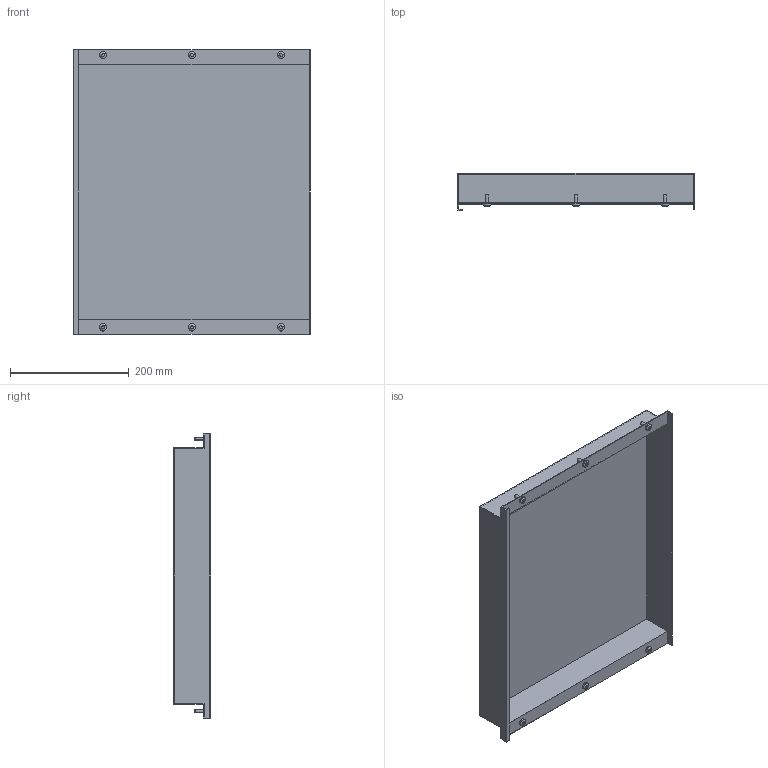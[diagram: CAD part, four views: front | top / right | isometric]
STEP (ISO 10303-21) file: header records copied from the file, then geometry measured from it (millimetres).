
FILE_DESCRIPTION (( 'STEP AP214' ), '1' );
FILE_NAME ('FO-00-PVSU-040-060 Ïëàñòðîí âíóòðåííèé óãëóáëåííûé 400õ600õ50.STEP', '2025-09-29T14:15:42', ( '' ), ( '' ), 'SwSTEP 2.0', 'SolidWorks 2023', '' );
FILE_SCHEMA (( 'AUTOMOTIVE_DESIGN' ));
Length unit declared in the file: millimetre
Products named in the file (3): FO-00-PVSU-040-060 Пластрон внутренний углубленный 400х600х50; Винты М6х16 40-60
Assembly tree (3 placements, depth 2):
  FO-00-PVSU-040-060 Пластрон внутренний углубленный 400х600х50
    FO-00-PVSU-040-060 Пластрон внутренний углубленный 400х600х50
    Винты М6х16 40-60  x2
Bounding box: 398 x 62.5 x 479 mm (x, y, z)
Volume: 404715.5 mm3; surface area: 578104.2 mm2
Topology: 7 solids, 7 shells, 214 faces, 558 edges, 364 vertices
Faces by surface type: cylinder 132, plane 52, cone 18, bspline 12
Entity records: 4464 total; most frequent: CARTESIAN_POINT 1022, ORIENTED_EDGE 708, DIRECTION 692, EDGE_CURVE 354, AXIS2_PLACEMENT_3D 256, VERTEX_POINT 232, VECTOR 180, LINE 180
